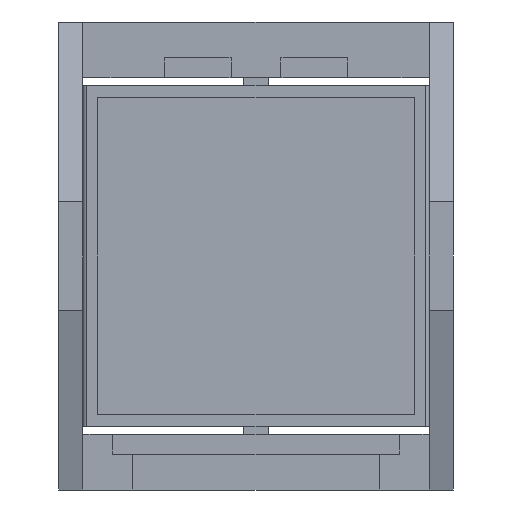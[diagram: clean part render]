
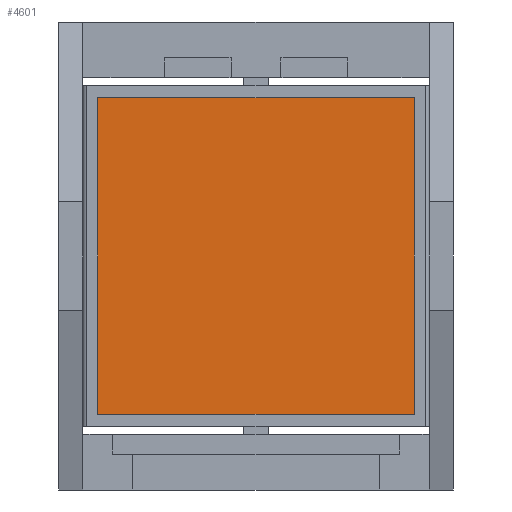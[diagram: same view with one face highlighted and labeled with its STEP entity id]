
A CAD part, front view. The second image highlights one B-rep face of the part: STEP entity #4601.
In plain terms, the highlighted planar face has unit normal (0, -1, 0).
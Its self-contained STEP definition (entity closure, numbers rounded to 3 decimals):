
#103 = VECTOR ( 'NONE', #4294, 1000. ) ;
#209 = ORIENTED_EDGE ( 'NONE', *, *, #1422, .F. ) ;
#424 = DIRECTION ( 'NONE',  ( 0., 1., 0. ) ) ;
#718 = VERTEX_POINT ( 'NONE', #1538 ) ;
#1066 = VERTEX_POINT ( 'NONE', #2397 ) ;
#1086 = EDGE_CURVE ( 'NONE', #1982, #718, #3844, .T. ) ;
#1239 = CARTESIAN_POINT ( 'NONE',  ( -6.476, -1.976, -9.821 ) ) ;
#1289 = LINE ( 'NONE', #4689, #1398 ) ;
#1398 = VECTOR ( 'NONE', #3399, 1000. ) ;
#1418 = ORIENTED_EDGE ( 'NONE', *, *, #1086, .F. ) ;
#1422 = EDGE_CURVE ( 'NONE', #5089, #1982, #4256, .T. ) ;
#1538 = CARTESIAN_POINT ( 'NONE',  ( -6.476, -1.976, 9.179 ) ) ;
#1623 = DIRECTION ( 'NONE',  ( 0., 0., 1. ) ) ;
#1651 = LINE ( 'NONE', #3052, #103 ) ;
#1914 = AXIS2_PLACEMENT_3D ( 'NONE', #5532, #424, #4751 ) ;
#1982 = VERTEX_POINT ( 'NONE', #4632 ) ;
#2310 = EDGE_LOOP ( 'NONE', ( #1418, #209, #3855, #2820 ) ) ;
#2397 = CARTESIAN_POINT ( 'NONE',  ( 12.524, -1.976, 9.179 ) ) ;
#2520 = CARTESIAN_POINT ( 'NONE',  ( -6.476, -1.976, -9.821 ) ) ;
#2802 = CARTESIAN_POINT ( 'NONE',  ( 12.524, -1.976, -9.821 ) ) ;
#2820 = ORIENTED_EDGE ( 'NONE', *, *, #3695, .F. ) ;
#2942 = VECTOR ( 'NONE', #1623, 1000. ) ;
#3052 = CARTESIAN_POINT ( 'NONE',  ( -6.476, -1.976, 9.179 ) ) ;
#3100 = EDGE_CURVE ( 'NONE', #1066, #5089, #1289, .T. ) ;
#3348 = FACE_OUTER_BOUND ( 'NONE', #2310, .T. ) ;
#3399 = DIRECTION ( 'NONE',  ( 0., 0., -1. ) ) ;
#3695 = EDGE_CURVE ( 'NONE', #718, #1066, #1651, .T. ) ;
#3844 = LINE ( 'NONE', #1239, #2942 ) ;
#3855 = ORIENTED_EDGE ( 'NONE', *, *, #3100, .F. ) ;
#4144 = DIRECTION ( 'NONE',  ( -1., 0., 0. ) ) ;
#4256 = LINE ( 'NONE', #2520, #4827 ) ;
#4294 = DIRECTION ( 'NONE',  ( 1., 0., 0. ) ) ;
#4601 = ADVANCED_FACE ( 'NONE', ( #3348 ), #5557, .F. ) ;
#4632 = CARTESIAN_POINT ( 'NONE',  ( -6.476, -1.976, -9.821 ) ) ;
#4689 = CARTESIAN_POINT ( 'NONE',  ( 12.524, -1.976, -9.821 ) ) ;
#4751 = DIRECTION ( 'NONE',  ( 0., 0., 1. ) ) ;
#4827 = VECTOR ( 'NONE', #4144, 1000. ) ;
#5089 = VERTEX_POINT ( 'NONE', #2802 ) ;
#5532 = CARTESIAN_POINT ( 'NONE',  ( -6.476, -1.976, 9.179 ) ) ;
#5557 = PLANE ( 'NONE',  #1914 ) ;
